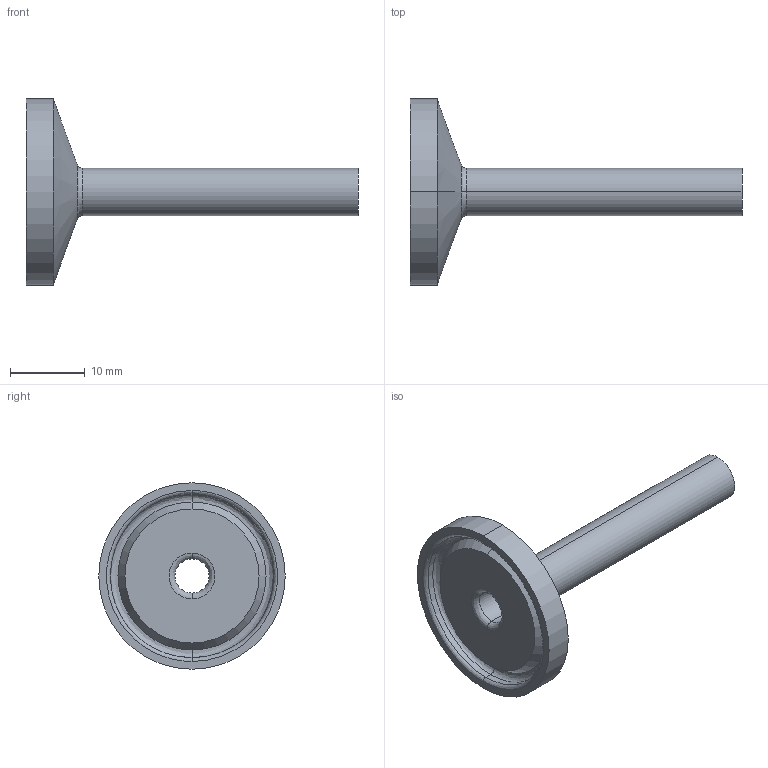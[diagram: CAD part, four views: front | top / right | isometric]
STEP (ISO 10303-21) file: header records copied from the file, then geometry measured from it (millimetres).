
FILE_DESCRIPTION (( 'STEP AP214' ), '1' );
FILE_NAME ('TEG14AM76L.25.STEP', '2016-05-23T03:45:28', ( 'eran' ), ( '' ), 'SwSTEP 2.0', 'SolidWorks 2016', '' );
FILE_SCHEMA (( 'AUTOMOTIVE_DESIGN' ));
Length unit declared in the file: millimetre
Products named in the file (1): TEG14AM76L.25
Bounding box: 44.5 x 24.99 x 24.99 mm (x, y, z)
Volume: 2560.8 mm3; surface area: 2782.9 mm2
Topology: 1 solids, 1 shells, 23 faces, 46 edges, 26 vertices
Faces by surface type: bspline 8, cylinder 8, cone 4, plane 3
Entity records: 724 total; most frequent: CARTESIAN_POINT 228, DIRECTION 104, ORIENTED_EDGE 92, AXIS2_PLACEMENT_3D 46, EDGE_CURVE 46, CIRCLE 30, EDGE_LOOP 26, VERTEX_POINT 26
